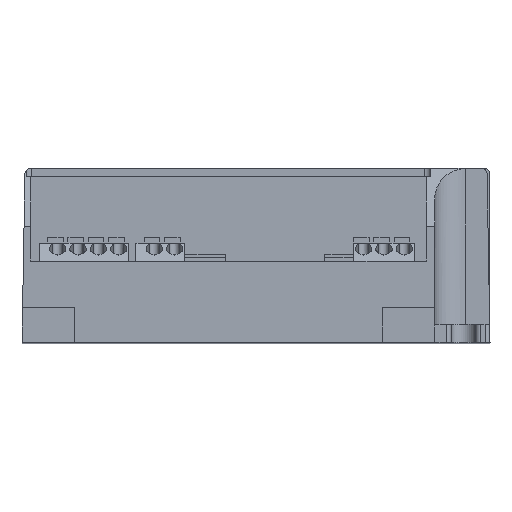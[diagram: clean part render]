
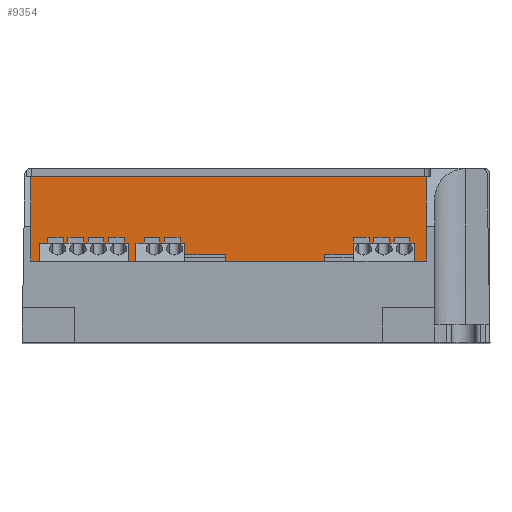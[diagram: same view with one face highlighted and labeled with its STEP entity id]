
A CAD part, top view. The second image highlights one B-rep face of the part: STEP entity #9354.
In plain terms, the highlighted planar face has unit normal (0, 0, 1).
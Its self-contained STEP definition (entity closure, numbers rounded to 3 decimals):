
#440 = VECTOR ( 'NONE', #11641, 1000. ) ;
#978 = DIRECTION ( 'NONE',  ( 0., 0., -1. ) ) ;
#1149 = CARTESIAN_POINT ( 'NONE',  ( -38.75, 5.142, 54.55 ) ) ;
#2057 = EDGE_CURVE ( 'NONE', #2717, #4420, #11815, .T. ) ;
#2401 = VECTOR ( 'NONE', #9420, 1000. ) ;
#2717 = VERTEX_POINT ( 'NONE', #4156 ) ;
#3012 = CARTESIAN_POINT ( 'NONE',  ( 30.61, 5.142, 54.55 ) ) ;
#3386 = LINE ( 'NONE', #9510, #440 ) ;
#4088 = DIRECTION ( 'NONE',  ( -1., 0., 0. ) ) ;
#4156 = CARTESIAN_POINT ( 'NONE',  ( -38.75, 28.5, 54.55 ) ) ;
#4213 = EDGE_LOOP ( 'NONE', ( #11297, #7131, #5921, #12197 ) ) ;
#4420 = VERTEX_POINT ( 'NONE', #11091 ) ;
#5466 = EDGE_CURVE ( 'NONE', #10342, #4420, #3386, .T. ) ;
#5511 = DIRECTION ( 'NONE',  ( 1., 0., 0. ) ) ;
#5515 = VECTOR ( 'NONE', #10107, 1000. ) ;
#5703 = VECTOR ( 'NONE', #5511, 1000. ) ;
#5720 = AXIS2_PLACEMENT_3D ( 'NONE', #3012, #978, #4088 ) ;
#5921 = ORIENTED_EDGE ( 'NONE', *, *, #2057, .F. ) ;
#6169 = VERTEX_POINT ( 'NONE', #11999 ) ;
#6682 = LINE ( 'NONE', #13885, #2401 ) ;
#7131 = ORIENTED_EDGE ( 'NONE', *, *, #5466, .T. ) ;
#7384 = FACE_OUTER_BOUND ( 'NONE', #4213, .T. ) ;
#8432 = CARTESIAN_POINT ( 'NONE',  ( 29.25, 5.6, 54.55 ) ) ;
#9354 = ADVANCED_FACE ( 'NONE', ( #7384 ), #13878, .F. ) ;
#9420 = DIRECTION ( 'NONE',  ( -1., 0., 0. ) ) ;
#9510 = CARTESIAN_POINT ( 'NONE',  ( 29.25, 5.142, 54.55 ) ) ;
#9876 = CARTESIAN_POINT ( 'NONE',  ( 30.61, 28.5, 54.55 ) ) ;
#10107 = DIRECTION ( 'NONE',  ( 0., -1., 0. ) ) ;
#10342 = VERTEX_POINT ( 'NONE', #8432 ) ;
#10784 = EDGE_CURVE ( 'NONE', #10342, #6169, #6682, .T. ) ;
#10813 = LINE ( 'NONE', #1149, #5515 ) ;
#11091 = CARTESIAN_POINT ( 'NONE',  ( 29.25, 28.5, 54.55 ) ) ;
#11297 = ORIENTED_EDGE ( 'NONE', *, *, #10784, .F. ) ;
#11641 = DIRECTION ( 'NONE',  ( 0., 1., 0. ) ) ;
#11815 = LINE ( 'NONE', #9876, #5703 ) ;
#11999 = CARTESIAN_POINT ( 'NONE',  ( -38.75, 5.6, 54.55 ) ) ;
#12197 = ORIENTED_EDGE ( 'NONE', *, *, #13024, .T. ) ;
#13024 = EDGE_CURVE ( 'NONE', #2717, #6169, #10813, .T. ) ;
#13878 = PLANE ( 'NONE',  #5720 ) ;
#13885 = CARTESIAN_POINT ( 'NONE',  ( -40.11, 5.6, 54.55 ) ) ;
